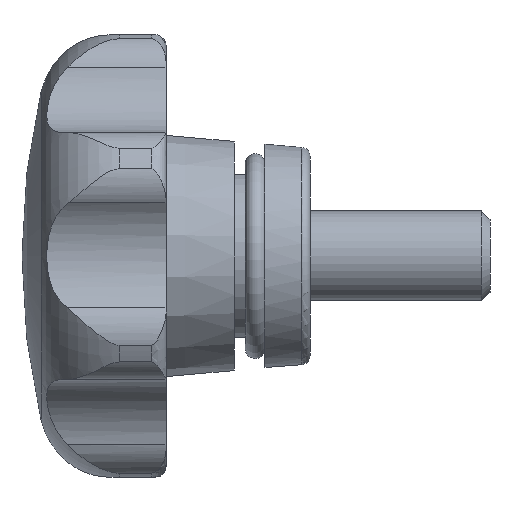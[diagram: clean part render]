
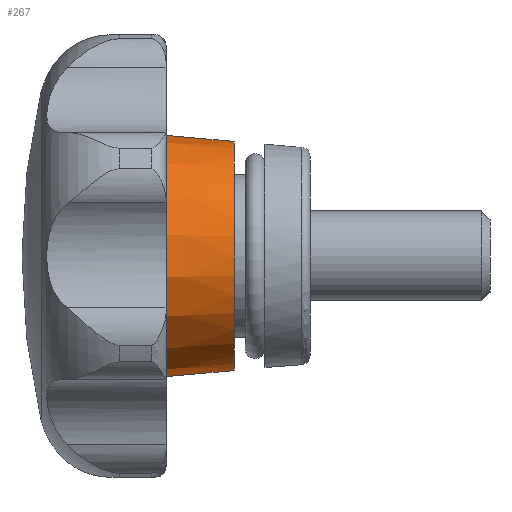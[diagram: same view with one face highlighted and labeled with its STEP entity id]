
A CAD part, left-side view. The second image highlights one B-rep face of the part: STEP entity #267.
In plain terms, the highlighted conical face has half-angle 5 degrees and reference radius 7.093 mm.
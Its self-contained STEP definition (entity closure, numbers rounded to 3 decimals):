
#267 = ADVANCED_FACE( '', ( #574, #575 ), #576, .T. );
#574 = FACE_BOUND( '', #970, .T. );
#575 = FACE_OUTER_BOUND( '', #971, .T. );
#576 = CONICAL_SURFACE( '', #972, 7.093, 0.087 );
#970 = EDGE_LOOP( '', ( #1873 ) );
#971 = EDGE_LOOP( '', ( #1874 ) );
#972 = AXIS2_PLACEMENT_3D( '', #1875, #1876, #1877 );
#1873 = ORIENTED_EDGE( '', *, *, #2752, .F. );
#1874 = ORIENTED_EDGE( '', *, *, #2753, .T. );
#1875 = CARTESIAN_POINT( '', ( 0., 12.517, 0. ) );
#1876 = DIRECTION( '', ( 0., 1., 0. ) );
#1877 = DIRECTION( '', ( 0., 0., 1. ) );
#2752 = EDGE_CURVE( '', #3372, #3372, #3373, .T. );
#2753 = EDGE_CURVE( '', #3374, #3374, #3375, .T. );
#3372 = VERTEX_POINT( '', #4852 );
#3373 = CIRCLE( '', #4853, 6.366 );
#3374 = VERTEX_POINT( '', #4854 );
#3375 = CIRCLE( '', #4855, 7.093 );
#4852 = CARTESIAN_POINT( '', ( 0., 4.2, -6.366 ) );
#4853 = AXIS2_PLACEMENT_3D( '', #5795, #5796, #5797 );
#4854 = CARTESIAN_POINT( '', ( 0., 12.517, -7.093 ) );
#4855 = AXIS2_PLACEMENT_3D( '', #5798, #5799, #5800 );
#5795 = CARTESIAN_POINT( '', ( 0., 4.2, 0. ) );
#5796 = DIRECTION( '', ( 0., -1., 0. ) );
#5797 = DIRECTION( '', ( 0., 0., -1. ) );
#5798 = CARTESIAN_POINT( '', ( 0., 12.517, 0. ) );
#5799 = DIRECTION( '', ( 0., -1., 0. ) );
#5800 = DIRECTION( '', ( 0., 0., -1. ) );
